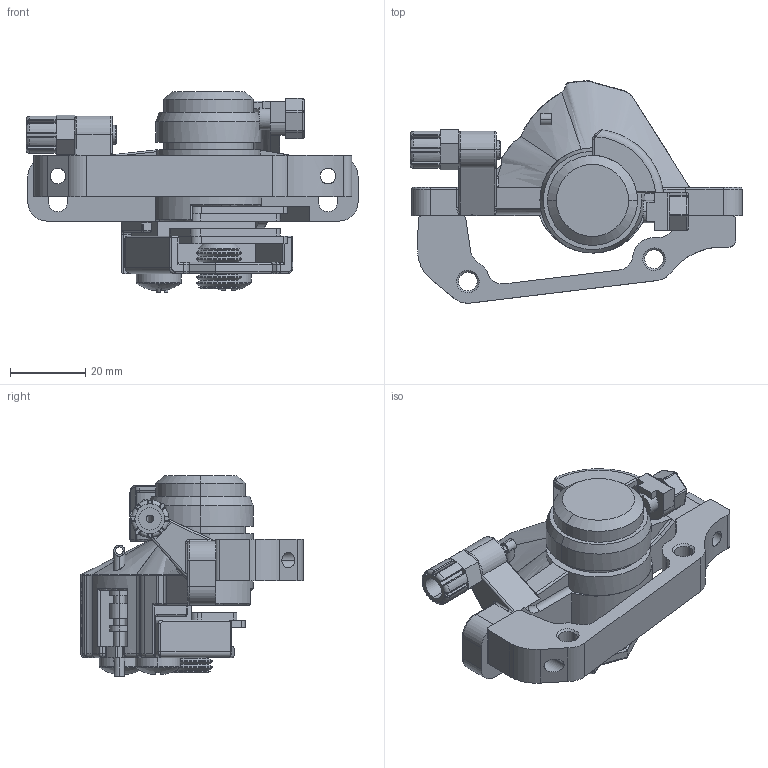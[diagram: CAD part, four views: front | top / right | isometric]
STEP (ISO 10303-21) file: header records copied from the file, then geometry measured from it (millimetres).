
FILE_DESCRIPTION (( 'STEP AP214' ), '1' );
FILE_NAME ('Ensamblaje Caliper trasero.STEP', '2020-06-25T02:25:17', ( '' ), ( '' ), 'SwSTEP 2.0', 'SolidWorks 2017', '' );
FILE_SCHEMA (( 'AUTOMOTIVE_DESIGN' ));
Length unit declared in the file: millimetre
Products named in the file (5): pan head cross recess screw_iso_ISO 7045 - M6 x 10 - Z --- 10N; socket set screw flat point_iso_ISO 4026 - M12 x 12-S; Base caliper; Caliper; Ensamblaje Caliper trasero
Assembly tree (5 placements, depth 2):
  Ensamblaje Caliper trasero
    Caliper
    Base caliper
    socket set screw flat point_iso_ISO 4026 - M12 x 12-S
    pan head cross recess screw_iso_ISO 7045 - M6 x 10 - Z --- 10N  x2
Bounding box: 88.5 x 59.3 x 53.5 mm (x, y, z)
Volume: 55887.5 mm3; surface area: 26869.5 mm2
Topology: 6 solids, 7 shells, 1050 faces, 2710 edges, 1700 vertices
Faces by surface type: plane 483, cylinder 293, bspline 133, cone 62, torus 61, sphere 18
Entity records: 43152 total; most frequent: CARTESIAN_POINT 15177, ORIENTED_EDGE 5210, DIRECTION 4661, EDGE_CURVE 2605, VERTEX_POINT 1645, AXIS2_PLACEMENT_3D 1593, VECTOR 1475, LINE 1475
